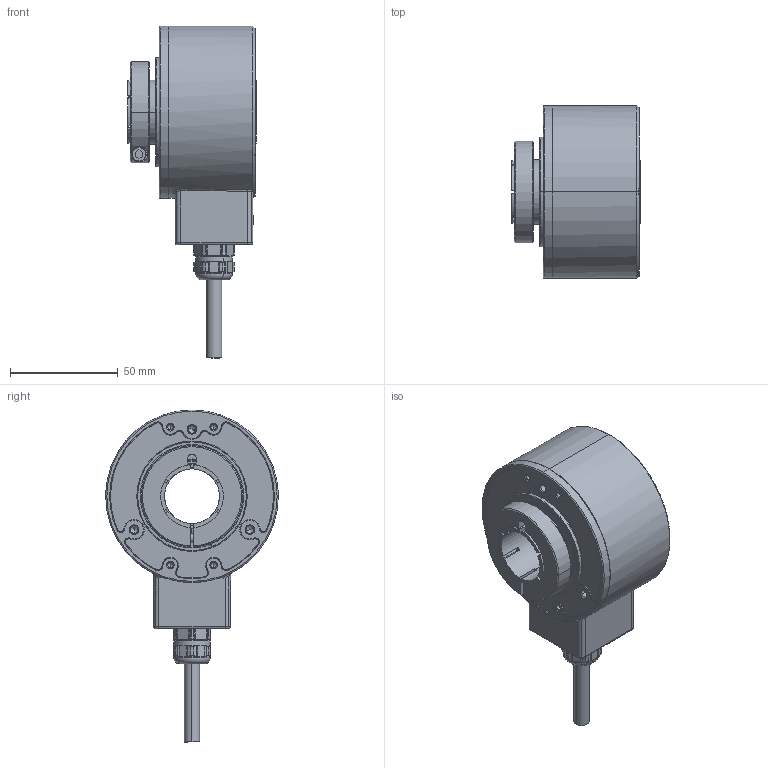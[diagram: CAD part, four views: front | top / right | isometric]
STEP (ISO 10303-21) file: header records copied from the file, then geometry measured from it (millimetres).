
FILE_DESCRIPTION(('STEP AP214'),'1');
FILE_NAME('llt.stp','2018-09-25T12:49:37',(' '),(' '),'Spatial InterOp 3D',' ',' ');
FILE_SCHEMA(('automotive_design'));
Length unit declared in the file: millimetre
Products named in the file (2): 1; 2
Bounding box: 59.5 x 80 x 154 mm (x, y, z)
Volume: 240554.6 mm3; surface area: 45735.4 mm2
Topology: 2 solids, 64 shells, 1817 faces, 4620 edges, 2947 vertices
Faces by surface type: plane 837, cylinder 454, cone 249, torus 177, bspline 84, sphere 16
Entity records: 77763 total; most frequent: CARTESIAN_POINT 20197, ORIENTED_EDGE 9180, DIRECTION 8685, EDGE_CURVE 4590, AXIS2_PLACEMENT_3D 3076, VERTEX_POINT 2947, LINE 2533, VECTOR 2533
